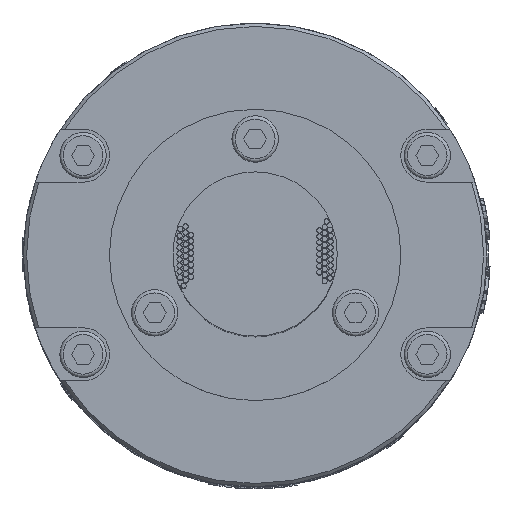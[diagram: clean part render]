
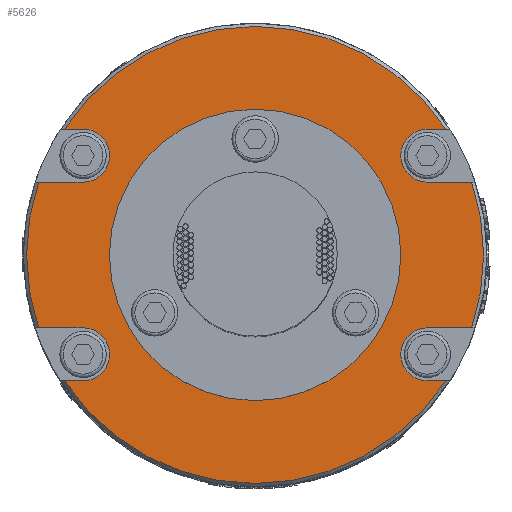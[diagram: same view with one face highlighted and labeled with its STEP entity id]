
A CAD part, top view. The second image highlights one B-rep face of the part: STEP entity #5626.
In plain terms, the highlighted planar face has unit normal (0, 0, 1).
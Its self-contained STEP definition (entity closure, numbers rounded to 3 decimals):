
#997=FACE_BOUND('',#9499,.T.);
#998=FACE_BOUND('',#9500,.T.);
#1387=CIRCLE('',#26938,22.);
#1445=CIRCLE('',#27109,4.);
#1448=CIRCLE('',#27116,4.);
#1459=CIRCLE('',#27133,34.5);
#1460=CIRCLE('',#27135,34.5);
#1461=CIRCLE('',#27137,34.5);
#1463=CIRCLE('',#27141,4.);
#1464=CIRCLE('',#27144,34.5);
#1465=CIRCLE('',#27147,4.);
#2668=LINE('',#52917,#3995);
#2671=LINE('',#52937,#3998);
#2675=LINE('',#52956,#4002);
#2679=LINE('',#52963,#4006);
#2686=LINE('',#53016,#4013);
#2688=LINE('',#53029,#4015);
#2692=LINE('',#53043,#4019);
#2694=LINE('',#53051,#4021);
#3995=VECTOR('',#31121,1.);
#3998=VECTOR('',#31132,1.);
#4002=VECTOR('',#31144,1.);
#4006=VECTOR('',#31150,1.);
#4013=VECTOR('',#31195,1.);
#4015=VECTOR('',#31205,1.);
#4019=VECTOR('',#31215,1.);
#4021=VECTOR('',#31225,1.);
#5626=ADVANCED_FACE('',(#997,#998),#6305,.T.);
#6305=PLANE('',#27203);
#9499=EDGE_LOOP('',(#16714,#16715,#16716,#16717,#16718,#16719,#16720,#16721,
#16722,#16723,#16724,#16725,#16726,#16727,#16728,#16729));
#9500=EDGE_LOOP('',(#16730));
#16714=ORIENTED_EDGE('',*,*,#22798,.T.);
#16715=ORIENTED_EDGE('',*,*,#22765,.T.);
#16716=ORIENTED_EDGE('',*,*,#22762,.F.);
#16717=ORIENTED_EDGE('',*,*,#22772,.T.);
#16718=ORIENTED_EDGE('',*,*,#22800,.T.);
#16719=ORIENTED_EDGE('',*,*,#22783,.T.);
#16720=ORIENTED_EDGE('',*,*,#22774,.F.);
#16721=ORIENTED_EDGE('',*,*,#22779,.T.);
#16722=ORIENTED_EDGE('',*,*,#22801,.T.);
#16723=ORIENTED_EDGE('',*,*,#22805,.T.);
#16724=ORIENTED_EDGE('',*,*,#22808,.T.);
#16725=ORIENTED_EDGE('',*,*,#22810,.T.);
#16726=ORIENTED_EDGE('',*,*,#22813,.T.);
#16727=ORIENTED_EDGE('',*,*,#22816,.T.);
#16728=ORIENTED_EDGE('',*,*,#22818,.F.);
#16729=ORIENTED_EDGE('',*,*,#22820,.T.);
#16730=ORIENTED_EDGE('',*,*,#22702,.F.);
#19180=VERTEX_POINT('',#52678);
#19238=VERTEX_POINT('',#52906);
#19240=VERTEX_POINT('',#52910);
#19243=VERTEX_POINT('',#52918);
#19247=VERTEX_POINT('',#52936);
#19248=VERTEX_POINT('',#52940);
#19250=VERTEX_POINT('',#52943);
#19254=VERTEX_POINT('',#52955);
#19257=VERTEX_POINT('',#52964);
#19268=VERTEX_POINT('',#52997);
#19269=VERTEX_POINT('',#53006);
#19271=VERTEX_POINT('',#53015);
#19273=VERTEX_POINT('',#53021);
#19274=VERTEX_POINT('',#53028);
#19275=VERTEX_POINT('',#53036);
#19277=VERTEX_POINT('',#53042);
#19278=VERTEX_POINT('',#53046);
#22702=EDGE_CURVE('',#19180,#19180,#1387,.T.);
#22762=EDGE_CURVE('',#19240,#19238,#1445,.T.);
#22765=EDGE_CURVE('',#19243,#19238,#2668,.T.);
#22772=EDGE_CURVE('',#19240,#19247,#2671,.T.);
#22774=EDGE_CURVE('',#19248,#19250,#1448,.T.);
#22779=EDGE_CURVE('',#19248,#19254,#2675,.T.);
#22783=EDGE_CURVE('',#19257,#19250,#2679,.T.);
#22798=EDGE_CURVE('',#19268,#19243,#1459,.T.);
#22800=EDGE_CURVE('',#19247,#19257,#1460,.T.);
#22801=EDGE_CURVE('',#19254,#19269,#1461,.T.);
#22805=EDGE_CURVE('',#19269,#19271,#2686,.T.);
#22808=EDGE_CURVE('',#19271,#19273,#1463,.T.);
#22810=EDGE_CURVE('',#19273,#19274,#2688,.T.);
#22813=EDGE_CURVE('',#19274,#19275,#1464,.T.);
#22816=EDGE_CURVE('',#19275,#19277,#2692,.T.);
#22818=EDGE_CURVE('',#19278,#19277,#1465,.T.);
#22820=EDGE_CURVE('',#19278,#19268,#2694,.T.);
#26938=AXIS2_PLACEMENT_3D('',#52677,#30771,#30772);
#27109=AXIS2_PLACEMENT_3D('',#52911,#31115,#31116);
#27116=AXIS2_PLACEMENT_3D('',#52942,#31136,#31137);
#27133=AXIS2_PLACEMENT_3D('',#52996,#31181,#31182);
#27135=AXIS2_PLACEMENT_3D('',#53003,#31185,#31186);
#27137=AXIS2_PLACEMENT_3D('',#53005,#31189,#31190);
#27141=AXIS2_PLACEMENT_3D('',#53022,#31201,#31202);
#27144=AXIS2_PLACEMENT_3D('',#53037,#31209,#31210);
#27147=AXIS2_PLACEMENT_3D('',#53048,#31219,#31220);
#27203=AXIS2_PLACEMENT_3D('',#53236,#31405,#31406);
#30771=DIRECTION('',(0.,0.,1.));
#30772=DIRECTION('',(1.,0.,0.));
#31115=DIRECTION('',(0.,0.,1.));
#31116=DIRECTION('',(1.,0.,0.));
#31121=DIRECTION('',(1.,0.,0.));
#31132=DIRECTION('',(-1.,0.,0.));
#31136=DIRECTION('',(0.,0.,1.));
#31137=DIRECTION('',(1.,0.,0.));
#31144=DIRECTION('',(1.,0.,0.));
#31150=DIRECTION('',(-1.,0.,0.));
#31181=DIRECTION('',(0.,0.,1.));
#31182=DIRECTION('',(1.,0.,0.));
#31185=DIRECTION('',(0.,0.,1.));
#31186=DIRECTION('',(1.,0.,0.));
#31189=DIRECTION('',(0.,0.,1.));
#31190=DIRECTION('',(1.,0.,0.));
#31195=DIRECTION('',(-1.,0.,0.));
#31201=DIRECTION('',(0.,0.,-1.));
#31202=DIRECTION('',(-1.,0.,0.));
#31205=DIRECTION('',(1.,0.,0.));
#31209=DIRECTION('',(0.,0.,1.));
#31210=DIRECTION('',(1.,0.,0.));
#31215=DIRECTION('',(1.,0.,0.));
#31219=DIRECTION('',(0.,0.,1.));
#31220=DIRECTION('',(1.,0.,0.));
#31225=DIRECTION('',(-1.,0.,0.));
#31405=DIRECTION('',(0.,0.,1.));
#31406=DIRECTION('',(1.,0.,0.));
#52677=CARTESIAN_POINT('',(0.,0.,96.));
#52678=CARTESIAN_POINT('',(22.,0.,96.));
#52906=CARTESIAN_POINT('',(-25.981,-11.,96.));
#52910=CARTESIAN_POINT('',(-25.981,-19.,96.));
#52911=CARTESIAN_POINT('',(-25.981,-15.,96.));
#52917=CARTESIAN_POINT('',(-30.431,-11.,96.));
#52918=CARTESIAN_POINT('',(-32.699,-11.,96.));
#52936=CARTESIAN_POINT('',(-28.797,-19.,96.));
#52937=CARTESIAN_POINT('',(-30.431,-19.,96.));
#52940=CARTESIAN_POINT('',(25.981,-11.,96.));
#52942=CARTESIAN_POINT('',(25.981,-15.,96.));
#52943=CARTESIAN_POINT('',(25.981,-19.,96.));
#52955=CARTESIAN_POINT('',(32.699,-11.,96.));
#52956=CARTESIAN_POINT('',(30.431,-11.,96.));
#52963=CARTESIAN_POINT('',(30.431,-19.,96.));
#52964=CARTESIAN_POINT('',(28.797,-19.,96.));
#52996=CARTESIAN_POINT('',(0.,0.,96.));
#52997=CARTESIAN_POINT('',(-32.699,11.,96.));
#53003=CARTESIAN_POINT('',(0.,0.,96.));
#53005=CARTESIAN_POINT('',(0.,0.,96.));
#53006=CARTESIAN_POINT('',(32.699,11.,96.));
#53015=CARTESIAN_POINT('',(25.981,11.,96.));
#53016=CARTESIAN_POINT('',(30.431,11.,96.));
#53021=CARTESIAN_POINT('',(25.981,19.,96.));
#53022=CARTESIAN_POINT('',(25.981,15.,96.));
#53028=CARTESIAN_POINT('',(28.797,19.,96.));
#53029=CARTESIAN_POINT('',(30.431,19.,96.));
#53036=CARTESIAN_POINT('',(-28.797,19.,96.));
#53037=CARTESIAN_POINT('',(0.,0.,96.));
#53042=CARTESIAN_POINT('',(-25.981,19.,96.));
#53043=CARTESIAN_POINT('',(-30.431,19.,96.));
#53046=CARTESIAN_POINT('',(-25.981,11.,96.));
#53048=CARTESIAN_POINT('',(-25.981,15.,96.));
#53051=CARTESIAN_POINT('',(-30.431,11.,96.));
#53236=CARTESIAN_POINT('',(0.,0.,96.));
